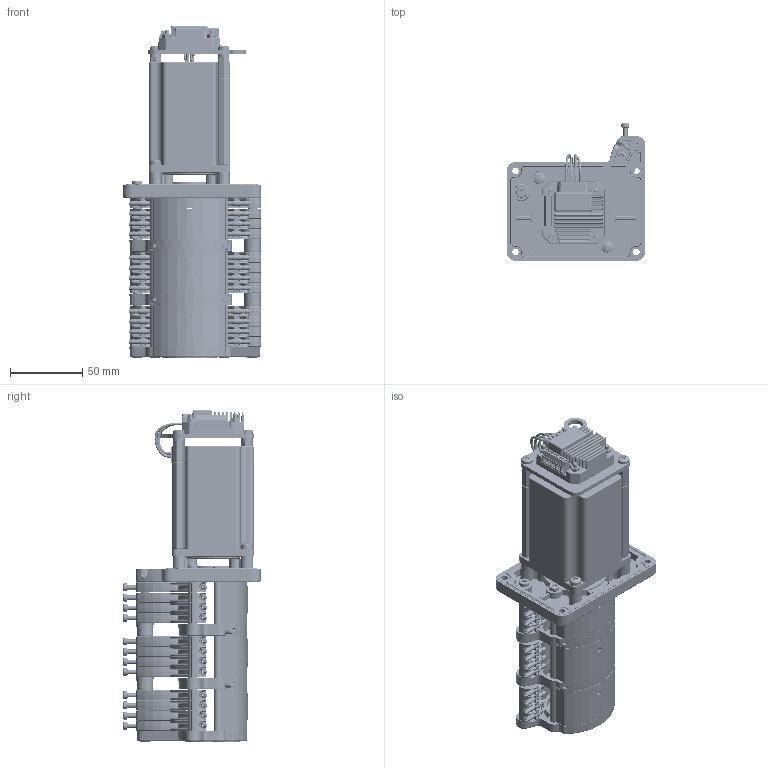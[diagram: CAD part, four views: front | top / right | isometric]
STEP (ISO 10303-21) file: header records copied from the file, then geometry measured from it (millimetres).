
FILE_DESCRIPTION (( 'STEP AP214' ), '1' );
FILE_NAME ('Assy_6K6003_A4_R00.STEP', '2026-09-24T13:20:02', ( '' ), ( '' ), 'SwSTEP 2.0', 'SolidWorks 2021', '' );
FILE_SCHEMA (( 'AUTOMOTIVE_DESIGN' ));
Length unit declared in the file: millimetre
Products named in the file (1): Assy_6K6003_A4_R00
Bounding box: 95.89 x 95.23 x 229.6 mm (x, y, z)
Volume: 428411.6 mm3; surface area: 192472.8 mm2
Topology: 25 solids, 43 shells, 7706 faces, 18133 edges, 10666 vertices
Faces by surface type: plane 2517, cylinder 2066, bspline 1442, cone 853, torus 545, sphere 283
Full cylindrical faces by diameter (mm): 1.5 x8, 1.6 x2, 1.65 x2, 1.8 x24, 2.2 x8, 2.4 x4, 2.5 x1, 2.7 x4, 2.8 x4, 3 x36, 3.2 x10, 3.4 x6, 4 x2, 4.022 x2, 4.5 x6, 5 x12, 5.5 x12, 6.05 x9, 6.1 x15, 7.5 x4, 8 x4, 8.55 x4, 10 x1, 10.5 x1, 24.168 x1
Entity records: 272497 total; most frequent: CARTESIAN_POINT 99865, ORIENTED_EDGE 35008, DIRECTION 29943, EDGE_CURVE 17504, AXIS2_PLACEMENT_3D 11492, VERTEX_POINT 10474, EDGE_LOOP 8456, FACE_OUTER_BOUND 7966
